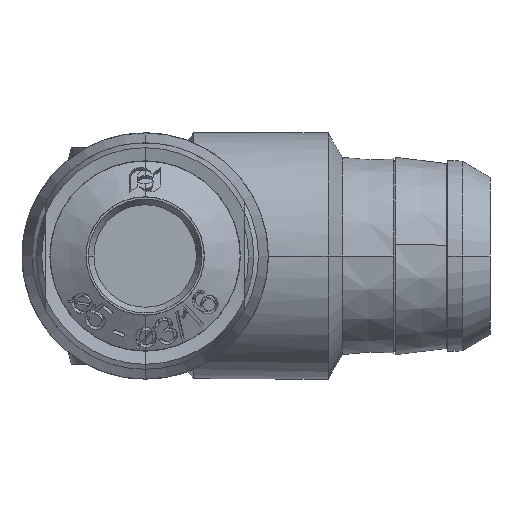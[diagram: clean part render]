
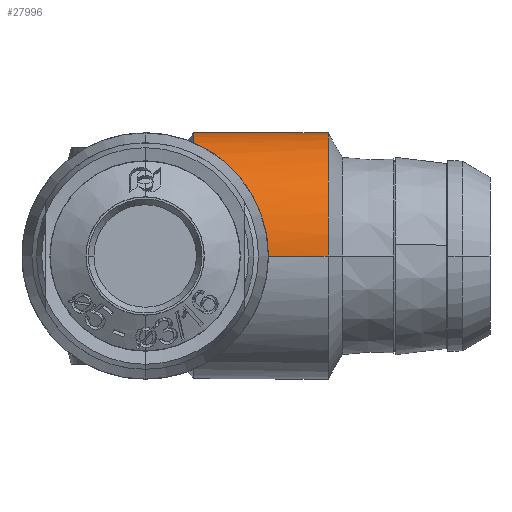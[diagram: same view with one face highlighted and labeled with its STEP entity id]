
A CAD part, left-side view. The second image highlights one B-rep face of the part: STEP entity #27996.
In plain terms, the highlighted cylindrical face has radius 6.25 mm (diameter 12.5 mm), a partial arc.
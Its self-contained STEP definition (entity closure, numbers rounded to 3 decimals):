
#983 = CARTESIAN_POINT ( 'NONE',  ( 2.467, -2.467, 5.742 ) ) ;
#4310 = VERTEX_POINT ( 'NONE', #24557 ) ;
#4311 = VERTEX_POINT ( 'NONE', #24559 ) ;
#4346 = VERTEX_POINT ( 'NONE', #24626 ) ;
#4350 = VERTEX_POINT ( 'NONE', #24633 ) ;
#4351 = VERTEX_POINT ( 'NONE', #24635 ) ;
#4352 = VERTEX_POINT ( 'NONE', #24637 ) ;
#6295 = EDGE_CURVE ( 'NONE', #4311, #4310, #36408, .T. ) ;
#6661 = VERTEX_POINT ( 'NONE', #983 ) ;
#10616 = ORIENTED_EDGE ( 'NONE', *, *, #30094, .T. ) ;
#10619 = ORIENTED_EDGE ( 'NONE', *, *, #30095, .T. ) ;
#10621 = ORIENTED_EDGE ( 'NONE', *, *, #30096, .T. ) ;
#10623 = ORIENTED_EDGE ( 'NONE', *, *, #30097, .T. ) ;
#10625 = ORIENTED_EDGE ( 'NONE', *, *, #30098, .F. ) ;
#13968 = LINE ( 'NONE', #21973, #13980 ) ;
#13980 = VECTOR ( 'NONE', #21981, 1000. ) ;
#13982 = CIRCLE ( 'NONE', #14950, 6.25 ) ;
#13984 = CIRCLE ( 'NONE', #14951, 6.25 ) ;
#13987 = LINE ( 'NONE', #22011, #13991 ) ;
#13991 = VECTOR ( 'NONE', #22014, 1000. ) ;
#14950 = AXIS2_PLACEMENT_3D ( 'NONE', #21993, #21995, #21996 ) ;
#14951 = AXIS2_PLACEMENT_3D ( 'NONE', #22001, #22002, #22004 ) ;
#15423 = AXIS2_PLACEMENT_3D ( 'NONE', #28673, #28674, #28675 ) ;
#17528 =( BOUNDED_CURVE ( )  B_SPLINE_CURVE ( 3, ( #21979, #21972, #21985, #21987 ),
 .UNSPECIFIED., .F., .F. ) 
 B_SPLINE_CURVE_WITH_KNOTS ( ( 4, 4 ),
 ( 3.142, 4.307 ),
 .UNSPECIFIED. ) 
 CURVE ( )  GEOMETRIC_REPRESENTATION_ITEM ( )  RATIONAL_B_SPLINE_CURVE ( ( 1., 0.89, 0.89, 1. ) ) 
 REPRESENTATION_ITEM ( '' )  );
#17529 =( BOUNDED_CURVE ( )  B_SPLINE_CURVE ( 3, ( #21998, #21999, #22006, #22008 ),
 .UNSPECIFIED., .F., .F. ) 
 B_SPLINE_CURVE_WITH_KNOTS ( ( 4, 4 ),
 ( 5.118, 6.283 ),
 .UNSPECIFIED. ) 
 CURVE ( )  GEOMETRIC_REPRESENTATION_ITEM ( )  RATIONAL_B_SPLINE_CURVE ( ( 1., 0.89, 0.89, 1. ) ) 
 REPRESENTATION_ITEM ( '' )  );
#19854 = CARTESIAN_POINT ( 'NONE',  ( 0., 0., 0. ) ) ;
#19855 = DIRECTION ( 'NONE',  ( 0., 1., 0. ) ) ;
#19863 = DIRECTION ( 'NONE',  ( -1., 0., 0. ) ) ;
#21023 = AXIS2_PLACEMENT_3D ( 'NONE', #19854, #19855, #19863 ) ;
#21972 = CARTESIAN_POINT ( 'NONE',  ( 6.25, -6.25, 2.575 ) ) ;
#21973 = CARTESIAN_POINT ( 'NONE',  ( 6.25, 0., 0. ) ) ;
#21979 = CARTESIAN_POINT ( 'NONE',  ( 6.25, -6.25, 0. ) ) ;
#21981 = DIRECTION ( 'NONE',  ( 0., 1., 0. ) ) ;
#21985 = CARTESIAN_POINT ( 'NONE',  ( 4.833, -4.833, 4.726 ) ) ;
#21987 = CARTESIAN_POINT ( 'NONE',  ( 2.467, -2.467, 5.742 ) ) ;
#21993 = CARTESIAN_POINT ( 'NONE',  ( 0., -2.467, 0. ) ) ;
#21995 = DIRECTION ( 'NONE',  ( 0., -1., 0. ) ) ;
#21996 = DIRECTION ( 'NONE',  ( 0., 0., -1. ) ) ;
#21998 = CARTESIAN_POINT ( 'NONE',  ( -2.467, -2.467, 5.742 ) ) ;
#21999 = CARTESIAN_POINT ( 'NONE',  ( -4.833, -4.833, 4.726 ) ) ;
#22001 = CARTESIAN_POINT ( 'NONE',  ( 0., -2.467, 0. ) ) ;
#22002 = DIRECTION ( 'NONE',  ( 0., -1., 0. ) ) ;
#22004 = DIRECTION ( 'NONE',  ( 0., 0., -1. ) ) ;
#22006 = CARTESIAN_POINT ( 'NONE',  ( -6.25, -6.25, 2.575 ) ) ;
#22008 = CARTESIAN_POINT ( 'NONE',  ( -6.25, -6.25, 0. ) ) ;
#22011 = CARTESIAN_POINT ( 'NONE',  ( -6.25, 0., 0. ) ) ;
#22014 = DIRECTION ( 'NONE',  ( 0., 1., 0. ) ) ;
#22219 = FACE_OUTER_BOUND ( 'NONE', #30415, .T. ) ;
#22247 = CYLINDRICAL_SURFACE ( 'NONE', #21023, 6.25 ) ;
#24557 = CARTESIAN_POINT ( 'NONE',  ( 6.25, -9.281, 0. ) ) ;
#24559 = CARTESIAN_POINT ( 'NONE',  ( -6.25, -9.281, 0. ) ) ;
#24626 = CARTESIAN_POINT ( 'NONE',  ( 6.25, -6.25, 0. ) ) ;
#24633 = CARTESIAN_POINT ( 'NONE',  ( 0., -2.467, 6.25 ) ) ;
#24635 = CARTESIAN_POINT ( 'NONE',  ( -2.467, -2.467, 5.742 ) ) ;
#24637 = CARTESIAN_POINT ( 'NONE',  ( -6.25, -6.25, 0. ) ) ;
#27996 = ADVANCED_FACE ( 'NONE', ( #22219 ), #22247, .T. ) ;
#28673 = CARTESIAN_POINT ( 'NONE',  ( 0., -9.281, 0. ) ) ;
#28674 = DIRECTION ( 'NONE',  ( 0., 1., 0. ) ) ;
#28675 = DIRECTION ( 'NONE',  ( -1., 0., 0. ) ) ;
#30093 = EDGE_CURVE ( 'NONE', #4310, #4346, #13968, .T. ) ;
#30094 = EDGE_CURVE ( 'NONE', #4346, #6661, #17528, .T. ) ;
#30095 = EDGE_CURVE ( 'NONE', #6661, #4350, #13982, .T. ) ;
#30096 = EDGE_CURVE ( 'NONE', #4350, #4351, #13984, .T. ) ;
#30097 = EDGE_CURVE ( 'NONE', #4351, #4352, #17529, .T. ) ;
#30098 = EDGE_CURVE ( 'NONE', #4311, #4352, #13987, .T. ) ;
#30415 = EDGE_LOOP ( 'NONE', ( #35716, #35717, #10616, #10619, #10621, #10623, #10625 ) ) ;
#35716 = ORIENTED_EDGE ( 'NONE', *, *, #6295, .T. ) ;
#35717 = ORIENTED_EDGE ( 'NONE', *, *, #30093, .T. ) ;
#36408 = CIRCLE ( 'NONE', #15423, 6.25 ) ;
